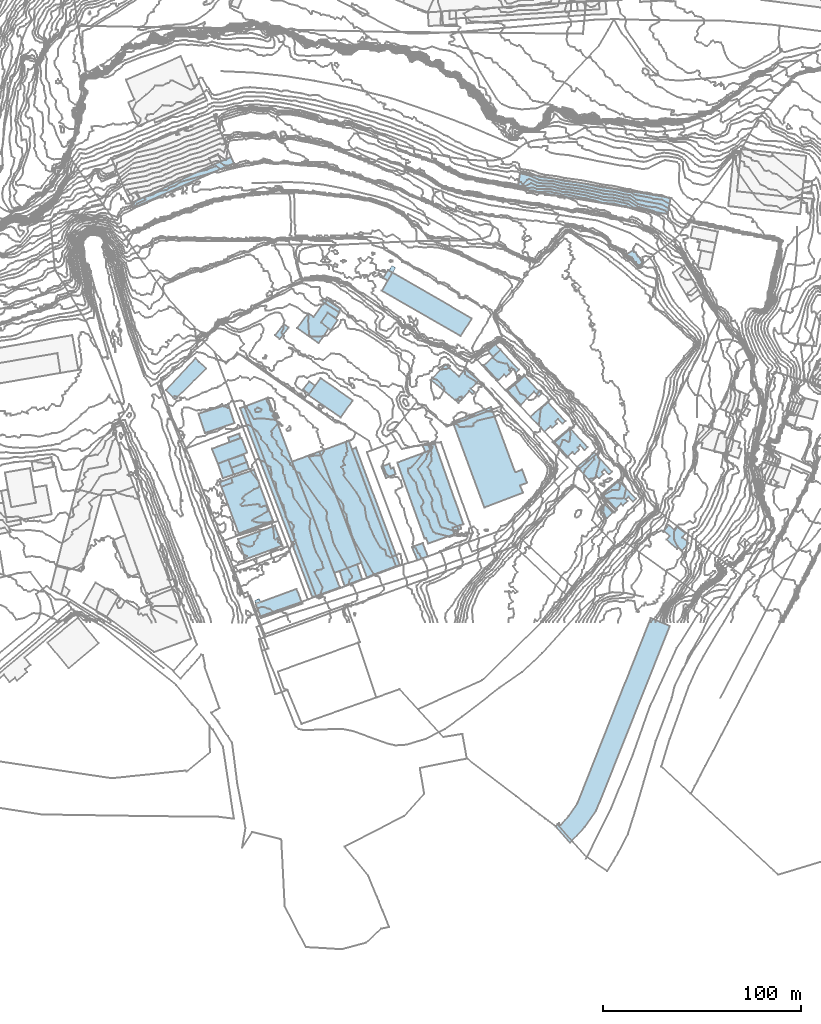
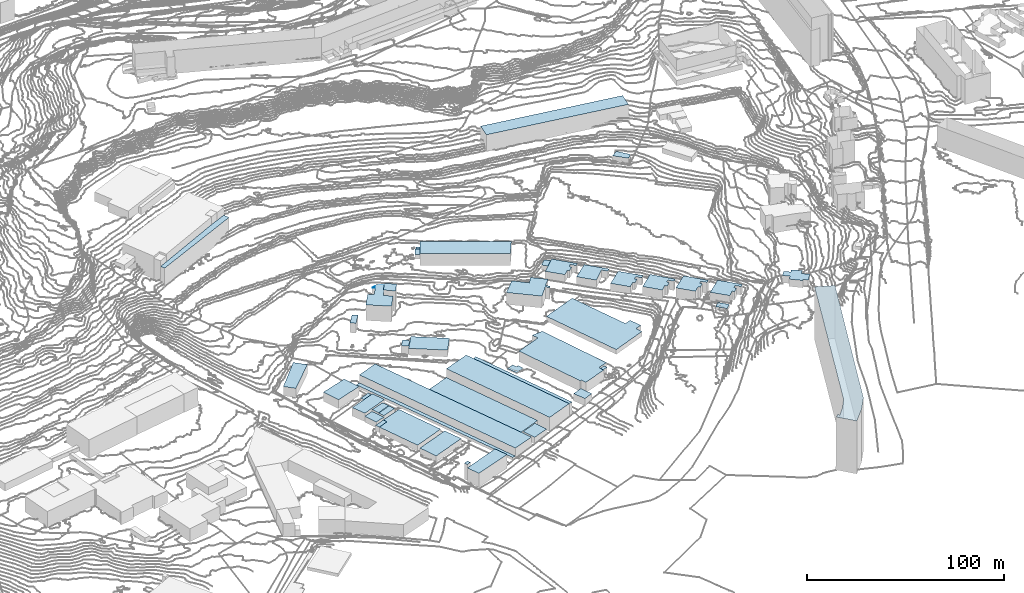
# Not in any storey, part 74 of 419: 46 roofs.
"""IFC2X3 model written with IfcOpenShell, lengths in metres."""

from ifc_helpers import new_model, si_unit, frame, origin_with_axes, place, context, subcontext, project, faceted_brep, element, save


model = new_model("IFC2X3")

# Units and contexts
model_context = context("Model", 3, precision=1e-05, world=origin_with_axes())
body_context = subcontext(model_context, "Body", "Model", "MODEL_VIEW")
ifc_project = project(units=[si_unit("AREAUNIT", "SQUARE_METRE"), si_unit("LENGTHUNIT", "METRE")], contexts=[model_context])

# Roofs
roof_1_placement = place(None, frame((421.3920204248, 172.2976909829, 35.0897986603), z_axis=(0.0, 0.0, 1.0), x_axis=(1.0, 0.0, 0.0)))
element("IfcRoof", 1, at=roof_1_placement, Name="Toiture 0", ShapeType="NOTDEFINED", context=body_context, shape_type="Brep", body=[
    faceted_brep([(0.0, 0.0, 2.9102013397), (2.2999999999, -1.3000000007, 2.9102013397), (4.7, 2.6999999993, 2.9102013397), (2.3999999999, 4.0, 2.9102013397)], [[[0, 1, 2]], [[2, 3, 0]]]),
])
roof_2_placement = place(None, frame((344.7920204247, 76.4976909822, 20.0280004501), z_axis=(0.0, 0.0, 1.0), x_axis=(1.0, 0.0, 0.0)))
element("IfcRoof", 2, at=roof_2_placement, Name="Toiture 0", ShapeType="NOTDEFINED", context=body_context, shape_type="Brep", body=[
    faceted_brep([(0.0, 0.0, 4.4719995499), (1.2000000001, -3.3999999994, 4.4719995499), (9.0, -0.5999999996, 4.4719995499), (7.8, 2.9000000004, 4.4719995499)], [[[0, 1, 2]], [[2, 3, 0]]]),
])
roof_3_placement = place(None, frame((343.1920204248, 91.6976909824, 20.6824001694), z_axis=(0.0, 0.0, 1.0), x_axis=(1.0, 0.0, 0.0)))
element("IfcRoof", 3, at=roof_3_placement, Name="Toiture 0", ShapeType="NOTDEFINED", context=body_context, shape_type="Brep", body=[
    faceted_brep([(0.0, 0.0, 4.4175998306), (0.6, -2.2000000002, 4.4175998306), (6.1, -0.2000000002, 4.4175998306), (5.6, 2.1000000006, 4.4175998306)], [[[0, 1, 2]], [[2, 3, 0]]]),
])
roof_4_placement = place(None, frame((311.6920204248, 115.7976909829, 23.0439993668), z_axis=(0.0, 0.0, 1.0), x_axis=(1.0, 0.0, 0.0)))
element("IfcRoof", 4, at=roof_4_placement, Name="Toiture 0", ShapeType="NOTDEFINED", context=body_context, shape_type="Brep", body=[
    faceted_brep([(16.8, 14.1999999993, 5.6560006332), (15.0, 16.0, 5.6560006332), (0.0, 0.0, 5.6560006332), (4.6, -4.6000000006, 5.6560006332), (20.3, 10.6999999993, 5.6560006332)], [[[0, 1, 2]], [[2, 3, 4]], [[4, 0, 2]]]),
])
roof_5_placement = place(None, frame((489.2920204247, 217.2976909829, 50.7399997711), z_axis=(0.0, 0.0, 1.0), x_axis=(1.0, 0.0, 0.0)))
element("IfcRoof", 5, at=roof_5_placement, Name="Toiture 0", ShapeType="NOTDEFINED", context=body_context, shape_type="Brep", body=[
    faceted_brep([(77.3, -4.5, 10.2600002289), (1.3, 8.0999999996, 10.2600002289), (0.0, 0.0, 10.2600002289), (75.9, -12.7000000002, 10.2600002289)], [[[0, 1, 2]], [[2, 3, 0]]]),
])
roof_6_placement = place(None, frame((366.6920204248, 143.3976909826, 26.1219998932), z_axis=(0.0, 0.0, 1.0), x_axis=(1.0, 0.0, 0.0)))
element("IfcRoof", 6, at=roof_6_placement, Name="Toiture 0", ShapeType="NOTDEFINED", context=body_context, shape_type="Brep", body=[
    faceted_brep([(2.5, -1.7999999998, 6.0), (6.9, 3.9000000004, 6.0), (4.5, 5.7999999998, 6.0), (0.0, 0.0, 6.0)], [[[0, 1, 2]], [[2, 3, 0]]]),
])
roof_7_placement = place(None, frame((472.3920204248, 128.2976909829, 31.6524000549), z_axis=(0.0, 0.0, 1.0), x_axis=(1.0, 0.0, 0.0)))
element("IfcRoof", 7, at=roof_7_placement, Name="Toiture 0", ShapeType="NOTDEFINED", context=body_context, shape_type="Brep", body=[
    faceted_brep([(8.2999999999, 7.7999999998, 4.6475999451), (0.0, 0.0, 4.6475999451), (7.2, -7.6000000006, 4.6475999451), (10.2, -4.8000000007, 4.6475999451), (11.1, -5.7000000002, 4.6475999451), (13.5, -3.5, 4.6475999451), (14.0, -1.2000000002, 4.6475999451), (16.2, -3.6000000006, 4.6475999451), (17.7, -2.3000000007, 4.6475999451), (12.6, -2.5, 4.6475999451)], [[[0, 1, 2]], [[3, 4, 5]], [[6, 7, 8]], [[0, 2, 3]], [[3, 5, 9]], [[6, 8, 0]], [[0, 3, 9]], [[9, 6, 0]]]),
])
roof_8_placement = place(None, frame((343.2920204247, 80.5976909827, 20.1700000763), z_axis=(0.0, 0.0, 1.0), x_axis=(1.0, 0.0, 0.0)))
element("IfcRoof", 8, at=roof_8_placement, Name="Toiture 0", ShapeType="NOTDEFINED", context=body_context, shape_type="Brep", body=[
    faceted_brep([(7.7000000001, 2.5, 4.5299999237), (0.0, 0.0, 4.5299999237), (1.5, -4.1000000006, 4.5299999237), (9.3, -1.2000000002, 4.5299999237)], [[[0, 1, 2]], [[2, 3, 0]]]),
])
roof_9_placement = place(None, frame((380.8920204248, 115.9976909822, 24.6870004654), z_axis=(0.0, 0.0, 1.0), x_axis=(1.0, 0.0, 0.0)))
element("IfcRoof", 9, at=roof_9_placement, Name="Toiture 0", ShapeType="NOTDEFINED", context=body_context, shape_type="Brep", body=[
    faceted_brep([(0.0, 0.0, 5.0129995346), (3.1, -2.2999999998, 5.0129995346), (6.1, 1.9000000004, 5.0129995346), (3.1, 4.1000000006, 5.0129995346)], [[[0, 1, 2]], [[2, 3, 0]]]),
])
roof_10_placement = place(None, frame((405.7920204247, 85.7976909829, 23.8416001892), z_axis=(0.0, 0.0, 1.0), x_axis=(1.0, 0.0, 0.0)))
element("IfcRoof", 10, at=roof_10_placement, Name="Toiture 0", ShapeType="NOTDEFINED", context=body_context, shape_type="Brep", body=[
    faceted_brep([(22.1000000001, -59.0, 7.4583998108), (24.1000000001, -58.4000000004, 7.4583998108), (1.9, 0.8999999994, 7.4583998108), (0.0, 0.0, 7.4583998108)], [[[0, 1, 2]], [[2, 3, 0]]]),
])
roof_11_placement = place(None, frame((389.2920204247, 84.6976909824, 22.6495998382), z_axis=(0.0, 0.0, 1.0), x_axis=(1.0, 0.0, 0.0)))
element("IfcRoof", 11, at=roof_11_placement, Name="Toiture 0", ShapeType="NOTDEFINED", context=body_context, shape_type="Brep", body=[
    faceted_brep([(23.9, -63.5, 8.7504001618), (38.6000000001, -57.8999999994, 8.7504001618), (14.8, 5.5, 8.7504001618), (0.0, 0.0, 8.7504001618)], [[[0, 1, 2]], [[2, 3, 0]]]),
])
roof_12_placement = place(None, frame((456.4920204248, 46.1976909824, 26.6595002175), z_axis=(0.0, 0.0, 1.0), x_axis=(1.0, 0.0, 0.0)))
element("IfcRoof", 12, at=roof_12_placement, Name="Toiture 0", ShapeType="NOTDEFINED", context=body_context, shape_type="Brep", body=[
    faceted_brep([(0.0, 0.0, 4.2404997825), (0.6, -1.8999999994, 4.2404997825), (4.4, -0.5, 4.2404997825), (3.9, 1.4000000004, 4.2404997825)], [[[0, 1, 2]], [[2, 3, 0]]]),
])
roof_13_placement = place(None, frame((420.6920204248, 165.8976909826, 35.0520011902), z_axis=(0.0, 0.0, 1.0), x_axis=(1.0, 0.0, 0.0)))
element("IfcRoof", 13, at=roof_13_placement, Name="Toiture 0", ShapeType="NOTDEFINED", context=body_context, shape_type="Brep", body=[
    faceted_brep([(5.4, 9.0999999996, 7.6479988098), (3.0, 5.0999999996, 7.6479988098), (0.0, 0.0, 7.6479988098), (39.8, -22.9000000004, 7.6479988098), (45.5, -14.0, 7.6479988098)], [[[0, 1, 2]], [[2, 3, 4]], [[4, 0, 2]]]),
])
roof_14_placement = place(None, frame((337.9920204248, 78.5976909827, 20.0227003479), z_axis=(0.0, 0.0, 1.0), x_axis=(1.0, 0.0, 0.0)))
element("IfcRoof", 14, at=roof_14_placement, Name="Toiture 0", ShapeType="NOTDEFINED", context=body_context, shape_type="Brep", body=[
    faceted_brep([(2.5, -7.2999999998, 3.5772996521), (8.0, -5.5, 3.5772996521), (5.2999999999, 2.0, 3.5772996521), (0.0, 0.0, 3.5772996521)], [[[0, 1, 2]], [[2, 3, 0]]]),
])
roof_15_placement = place(None, frame((334.8920204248, 86.0976909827, 20.3079998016), z_axis=(0.0, 0.0, 1.0), x_axis=(1.0, 0.0, 0.0)))
element("IfcRoof", 15, at=roof_15_placement, Name="Toiture 0", ShapeType="NOTDEFINED", context=body_context, shape_type="Brep", body=[
    faceted_brep([(0.0, 0.0, 5.1920001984), (3.1, -7.5, 5.1920001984), (17.8999999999, -1.9000000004, 5.1920001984), (15.0, 5.5, 5.1920001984)], [[[0, 1, 2]], [[2, 3, 0]]]),
])
roof_16_placement = place(None, frame((445.2920204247, 120.8976909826, 29.7809999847), z_axis=(0.0, 0.0, 1.0), x_axis=(1.0, 0.0, 0.0)))
element("IfcRoof", 16, at=roof_16_placement, Name="Toiture 0", ShapeType="NOTDEFINED", context=body_context, shape_type="Brep", body=[
    faceted_brep([(24.3, -0.4000000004, 7.3190000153), (17.3, 5.5, 7.3190000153), (14.5, 1.5999999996, 7.3190000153), (7.7000000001, 7.5999999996, 7.3190000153), (0.0, 0.0, 7.3190000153), (14.1000000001, -11.7999999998, 7.3190000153), (19.6000000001, -5.7000000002, 7.3190000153), (21.3, -7.2000000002, 7.3190000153), (22.2000000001, -6.2000000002, 7.3190000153), (20.4, -4.5, 7.3190000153)], [[[0, 1, 2]], [[2, 3, 4]], [[4, 5, 6]], [[6, 7, 8]], [[9, 0, 2]], [[2, 4, 6]], [[6, 8, 9]], [[9, 2, 6]]]),
])
roof_17_placement = place(None, frame((357.0920204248, 7.6976909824, 19.3652006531), z_axis=(0.0, 0.0, 1.0), x_axis=(1.0, 0.0, 0.0)))
element("IfcRoof", 17, at=roof_17_placement, Name="Toiture 0", ShapeType="NOTDEFINED", context=body_context, shape_type="Brep", body=[
    faceted_brep([(0.0, 0.0, 8.5347993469), (2.7, -7.0999999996, 8.5347993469), (23.5, 0.2000000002, 8.5347993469), (20.6, 7.6000000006, 8.5347993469)], [[[0, 1, 2]], [[2, 3, 0]]]),
])
roof_18_placement = place(None, frame((519.3920204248, 76.9976909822, 33.9335998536), z_axis=(0.0, 0.0, 1.0), x_axis=(1.0, 0.0, 0.0)))
element("IfcRoof", 18, at=roof_18_placement, Name="Toiture 0", ShapeType="NOTDEFINED", context=body_context, shape_type="Brep", body=[
    faceted_brep([(8.7, 7.3000000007, 6.7664001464), (0.0, 0.0, 6.7664001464), (7.1, -7.6999999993, 6.7664001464), (10.1, -4.8999999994, 6.7664001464), (11.0, -5.7999999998, 6.7664001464), (13.3999999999, -3.5999999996, 6.7664001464), (13.8999999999, -1.3999999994, 6.7664001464), (16.1, -3.7999999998, 6.7664001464), (17.6, -2.3999999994, 6.7664001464), (12.5, -2.5999999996, 6.7664001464)], [[[0, 1, 2]], [[3, 4, 5]], [[6, 7, 8]], [[0, 2, 3]], [[3, 5, 9]], [[6, 8, 0]], [[0, 3, 9]], [[9, 6, 0]]]),
])
roof_19_placement = place(None, frame((530.3920204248, 55.4976909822, 36.1887983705), z_axis=(0.0, 0.0, 1.0), x_axis=(1.0, 0.0, 0.0)))
element("IfcRoof", 19, at=roof_19_placement, Name="Toiture 0", ShapeType="NOTDEFINED", context=body_context, shape_type="Brep", body=[
    faceted_brep([(4.1, -4.2999999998, 2.0112016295), (7.0, -1.6999999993, 2.0112016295), (2.7999999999, 2.8000000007, 2.0112016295), (0.0, 0.0, 2.0112016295)], [[[0, 1, 2]], [[2, 3, 0]]]),
])
roof_20_placement = place(None, frame((349.1920204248, 106.5976909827, 20.5634006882), z_axis=(0.0, 0.0, 1.0), x_axis=(1.0, 0.0, 0.0)))
element("IfcRoof", 20, at=roof_20_placement, Name="Toiture 0", ShapeType="NOTDEFINED", context=body_context, shape_type="Brep", body=[
    faceted_brep([(0.0, 0.0, 1.6365993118), (36.5, -95.2999999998, 1.6365993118), (38.4, -94.9000000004, 1.6365993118), (2.2000000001, 0.7999999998, 1.6365993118)], [[[0, 1, 2]], [[2, 3, 0]]]),
])
roof_21_placement = place(None, frame((428.5920204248, 79.0976909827, 25.4969999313), z_axis=(0.0, 0.0, 1.0), x_axis=(1.0, 0.0, 0.0)))
element("IfcRoof", 21, at=roof_21_placement, Name="Toiture 0", ShapeType="NOTDEFINED", context=body_context, shape_type="Brep", body=[
    faceted_brep([(27.9, -32.9000000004, 6.5030000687), (33.4, -31.1000000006, 6.5030000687), (19.1, 9.2999999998, 6.5030000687), (12.8, 8.7000000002, 6.5030000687), (14.2, 5.2999999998, 6.5030000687), (0.0, 0.0, 6.5030000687), (13.8, -38.2999999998, 6.5030000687), (14.5, -38.0, 6.5030000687), (15.6, -40.9000000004, 6.5030000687), (28.9, -36.1000000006, 6.5030000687)], [[[0, 1, 2]], [[2, 3, 4]], [[4, 5, 6]], [[7, 8, 9]], [[0, 2, 4]], [[4, 6, 7]], [[7, 9, 0]], [[0, 4, 7]]]),
])
roof_22_placement = place(None, frame((338.7920204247, 69.1976909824, 20.0052000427), z_axis=(0.0, 0.0, 1.0), x_axis=(1.0, 0.0, 0.0)))
element("IfcRoof", 22, at=roof_22_placement, Name="Toiture 0", ShapeType="NOTDEFINED", context=body_context, shape_type="Brep", body=[
    faceted_brep([(0.0, 0.0, 3.3947999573), (0.9, -2.2999999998, 3.3947999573), (6.6000000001, -0.2000000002, 3.3947999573), (5.9, 2.2000000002, 3.3947999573)], [[[0, 1, 2]], [[2, 3, 0]]]),
])
roof_23_placement = place(None, frame((508.4920204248, -104.6023090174, 41.7790016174), z_axis=(0.0, 0.0, 1.0), x_axis=(1.0, 0.0, 0.0)))
element("IfcRoof", 23, at=roof_23_placement, Name="Toiture 0", ShapeType="NOTDEFINED", context=body_context, shape_type="Brep", body=[
    faceted_brep([(1.7999999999, 1.5, 32.8209983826), (0.0, 0.0, 32.8209983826), (7.2999999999, -8.2999999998, 32.8209983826), (14.7, -0.4000000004, 32.8209983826), (20.5, 7.7999999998, 32.8209983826), (57.7, 101.0999999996, 32.8209983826), (48.1, 105.2000000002, 32.8209983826), (2.6, 0.5999999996, 32.8209983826), (6.6, 5.2000000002, 32.8209983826), (11.0, 11.5, 32.8209983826)], [[[0, 1, 2]], [[2, 3, 4]], [[4, 5, 6]], [[7, 0, 2]], [[2, 4, 6]], [[8, 7, 2]], [[2, 6, 9]], [[9, 8, 2]]]),
])
roof_24_placement = place(None, frame((435.9920204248, 36.4976909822, 24.4427996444), z_axis=(0.0, 0.0, 1.0), x_axis=(1.0, 0.0, 0.0)))
element("IfcRoof", 24, at=roof_24_placement, Name="Toiture 0", ShapeType="NOTDEFINED", context=body_context, shape_type="Brep", body=[
    faceted_brep([(2.7999999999, -6.6999999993, 4.4572003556), (8.0, -4.6999999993, 4.4572003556), (5.5, 2.0, 4.4572003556), (0.0, 0.0, 4.4572003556)], [[[0, 1, 2]], [[2, 3, 0]]]),
])
roof_25_placement = place(None, frame((474.3920204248, 135.5976909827, 32.0834997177), z_axis=(0.0, 0.0, 1.0), x_axis=(1.0, 0.0, 0.0)))
element("IfcRoof", 25, at=roof_25_placement, Name="Toiture 0", ShapeType="NOTDEFINED", context=body_context, shape_type="Brep", body=[
    faceted_brep([(0.0, 0.0, 3.0165002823), (2.7, -2.9000000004, 3.0165002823), (6.2999999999, 0.5, 3.0165002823), (3.5, 3.2999999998, 3.0165002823)], [[[0, 1, 2]], [[2, 3, 0]]]),
])
roof_26_placement = place(None, frame((356.3920204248, 9.4976909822, 20.2654003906), z_axis=(0.0, 0.0, 1.0), x_axis=(1.0, 0.0, 0.0)))
element("IfcRoof", 26, at=roof_26_placement, Name="Toiture 0", ShapeType="NOTDEFINED", context=body_context, shape_type="Brep", body=[
    faceted_brep([(0.0, 0.0, 9.7345996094), (0.7, -1.7999999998, 9.7345996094), (3.1, -0.8999999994, 9.7345996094), (2.3999999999, 1.0, 9.7345996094)], [[[0, 1, 2]], [[2, 3, 0]]]),
])
roof_27_placement = place(None, frame((377.9920204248, 146.9976909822, 27.5247998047), z_axis=(0.0, 0.0, 1.0), x_axis=(1.0, 0.0, 0.0)))
element("IfcRoof", 27, at=roof_27_placement, Name="Toiture 0", ShapeType="NOTDEFINED", context=body_context, shape_type="Brep", body=[
    faceted_brep([(10.7999999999, -7.5999999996, 9.6752001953), (15.7999999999, -0.1999999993, 9.6752001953), (12.0, 2.9000000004, 9.6752001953), (15.4, 7.8000000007, 9.6752001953), (19.5, 5.0, 9.6752001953), (21.2999999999, 7.8000000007, 9.6752001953), (8.2, 5.7000000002, 9.6752001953), (5.5, 7.5, 9.6752001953), (0.0, 0.0, 9.6752001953), (13.4, 12.9000000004, 9.6752001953)], [[[0, 1, 2]], [[3, 4, 5]], [[6, 7, 8]], [[8, 0, 2]], [[3, 5, 9]], [[6, 8, 2]], [[2, 3, 9]], [[9, 6, 2]]]),
])
roof_28_placement = place(None, frame((456.5920204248, 99.6976909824, 28.288000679), z_axis=(0.0, 0.0, 1.0), x_axis=(1.0, 0.0, 0.0)))
element("IfcRoof", 28, at=roof_28_placement, Name="Toiture 0", ShapeType="NOTDEFINED", context=body_context, shape_type="Brep", body=[
    faceted_brep([(19.4, 7.4000000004, 2.911999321), (0.0, 0.0, 2.911999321), (16.0, -43.2000000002, 2.911999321), (35.4, -35.7999999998, 2.911999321), (34.1, -32.0999999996, 2.911999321), (37.6, -30.7999999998, 2.911999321), (35.1, -24.2000000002, 2.911999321), (31.6, -25.5, 2.911999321)], [[[0, 1, 2]], [[2, 3, 4]], [[4, 5, 6]], [[7, 0, 2]], [[2, 4, 6]], [[6, 7, 2]]]),
])
roof_29_placement = place(None, frame((495.7920204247, 102.3976909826, 31.7419998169), z_axis=(0.0, 0.0, 1.0), x_axis=(1.0, 0.0, 0.0)))
element("IfcRoof", 29, at=roof_29_placement, Name="Toiture 0", ShapeType="NOTDEFINED", context=body_context, shape_type="Brep", body=[
    faceted_brep([(8.7000000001, 7.4000000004, 4.5580001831), (0.0, 0.0, 4.5580001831), (7.2000000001, -7.5999999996, 4.5580001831), (10.2000000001, -4.7999999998, 4.5580001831), (11.0, -5.7000000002, 4.5580001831), (13.5, -3.5, 4.5580001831), (13.9, -1.2000000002, 4.5580001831), (16.2000000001, -3.5999999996, 4.5580001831), (17.7000000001, -2.2000000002, 4.5580001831), (12.6000000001, -2.5, 4.5580001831)], [[[0, 1, 2]], [[3, 4, 5]], [[6, 7, 8]], [[0, 2, 3]], [[3, 5, 9]], [[6, 8, 0]], [[0, 3, 9]], [[9, 6, 0]]]),
])
roof_30_placement = place(None, frame((507.0920204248, 89.3976909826, 32.5799999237), z_axis=(0.0, 0.0, 1.0), x_axis=(1.0, 0.0, 0.0)))
element("IfcRoof", 30, at=roof_30_placement, Name="Toiture 0", ShapeType="NOTDEFINED", context=body_context, shape_type="Brep", body=[
    faceted_brep([(8.6, 7.4000000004, 5.7200000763), (0.0, 0.0, 5.7200000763), (7.1, -7.7000000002, 5.7200000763), (10.1, -4.9000000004, 5.7200000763), (11.0, -5.9000000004, 5.7200000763), (13.4, -3.7000000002, 5.7200000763), (13.9, -1.5, 5.7200000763), (16.1, -3.9000000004, 5.7200000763), (17.6, -2.5, 5.7200000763), (12.5, -2.7000000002, 5.7200000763)], [[[0, 1, 2]], [[3, 4, 5]], [[6, 7, 8]], [[0, 2, 3]], [[3, 5, 9]], [[6, 8, 0]], [[0, 3, 9]], [[9, 6, 0]]]),
])
roof_31_placement = place(None, frame((531.3920204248, 62.9976909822, 36.9735998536), z_axis=(0.0, 0.0, 1.0), x_axis=(1.0, 0.0, 0.0)))
element("IfcRoof", 31, at=roof_31_placement, Name="Toiture 0", ShapeType="NOTDEFINED", context=body_context, shape_type="Brep", body=[
    faceted_brep([(8.7, 7.4000000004, 5.2264001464), (0.0, 0.0, 5.2264001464), (7.2, -7.5, 5.2264001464), (10.2, -4.6999999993, 5.2264001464), (11.1, -5.5999999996, 5.2264001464), (13.5, -3.2999999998, 5.2264001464), (13.8999999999, -1.0999999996, 5.2264001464), (16.2, -3.5, 5.2264001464), (17.7, -2.0999999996, 5.2264001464), (12.6, -2.3999999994, 5.2264001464)], [[[0, 1, 2]], [[3, 4, 5]], [[6, 7, 8]], [[0, 2, 3]], [[3, 5, 9]], [[6, 8, 0]], [[0, 3, 9]], [[9, 6, 0]]]),
])
roof_32_placement = place(None, frame((383.4920204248, 113.1976909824, 24.6164005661), z_axis=(0.0, 0.0, 1.0), x_axis=(1.0, 0.0, 0.0)))
element("IfcRoof", 32, at=roof_32_placement, Name="Toiture 0", ShapeType="NOTDEFINED", context=body_context, shape_type="Brep", body=[
    faceted_brep([(0.5, 0.5, 4.1835994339), (0.0, 0.0, 4.1835994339), (16.4, -11.2999999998, 4.1835994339), (22.5, -2.7000000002, 4.1835994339), (6.2999999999, 8.5, 4.1835994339)], [[[0, 1, 2]], [[2, 3, 4]], [[4, 0, 2]]]),
])
roof_33_placement = place(None, frame((389.9920204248, 149.8976909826, 27.9512001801), z_axis=(0.0, 0.0, 1.0), x_axis=(1.0, 0.0, 0.0)))
element("IfcRoof", 33, at=roof_33_placement, Name="Toiture 0", ShapeType="NOTDEFINED", context=body_context, shape_type="Brep", body=[
    faceted_brep([(3.7999999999, -3.0999999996, 12.5487998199), (4.7999999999, -4.0999999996, 12.5487998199), (8.4, 1.0999999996, 12.5487998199), (3.4, 4.9000000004, 12.5487998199), (0.0, 0.0, 12.5487998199)], [[[0, 1, 2]], [[2, 3, 4]], [[4, 0, 2]]]),
])
roof_34_placement = place(None, frame((389.6920204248, 160.9976909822, 28.4696003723), z_axis=(0.0, 0.0, 1.0), x_axis=(1.0, 0.0, 0.0)))
element("IfcRoof", 34, at=roof_34_placement, Name="Toiture 0", ShapeType="NOTDEFINED", context=body_context, shape_type="Brep", body=[
    faceted_brep([(0.0, 0.0, 6.7303996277), (9.3, -5.7999999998, 6.7303996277), (10.2000000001, -4.3999999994, 6.7303996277), (3.5, 0.1000000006, 6.7303996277), (1.9, 0.4000000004, 6.7303996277)], [[[0, 1, 2]], [[2, 3, 4]], [[4, 0, 2]]]),
])
roof_35_placement = place(None, frame((294.1920204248, 210.1976909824, 40.9370006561), z_axis=(0.0, 0.0, 1.0), x_axis=(1.0, 0.0, 0.0)))
element("IfcRoof", 35, at=roof_35_placement, Name="Toiture 0", ShapeType="NOTDEFINED", context=body_context, shape_type="Brep", body=[
    faceted_brep([(41.1, 19.2999999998, 11.0629993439), (0.0, 0.0, 11.0629993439), (1.1, -2.2999999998, 11.0629993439), (51.8, 20.2000000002, 11.0629993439), (50.5, 23.2999999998, 11.0629993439)], [[[0, 1, 2]], [[2, 3, 4]], [[4, 0, 2]]]),
])
roof_36_placement = place(None, frame((351.3920204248, 107.3976909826, 20.9520000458), z_axis=(0.0, 0.0, 1.0), x_axis=(1.0, 0.0, 0.0)))
element("IfcRoof", 36, at=roof_36_placement, Name="Toiture 0", ShapeType="NOTDEFINED", context=body_context, shape_type="Brep", body=[
    faceted_brep([(0.0, 0.0, 6.1479999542), (36.2, -95.7000000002, 6.1479999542), (48.2, -91.2999999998, 6.1479999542), (11.7999999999, 4.5, 6.1479999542)], [[[0, 1, 2]], [[2, 3, 0]]]),
])
roof_37_placement = place(None, frame((339.6920204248, 66.8976909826, 19.655200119), z_axis=(0.0, 0.0, 1.0), x_axis=(1.0, 0.0, 0.0)))
element("IfcRoof", 37, at=roof_37_placement, Name="Toiture 0", ShapeType="NOTDEFINED", context=body_context, shape_type="Brep", body=[
    faceted_brep([(5.7000000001, 2.0999999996, 3.744799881), (0.0, 0.0, 3.744799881), (8.8, -23.5999999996, 3.744799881), (26.1, -17.0999999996, 3.744799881), (16.5, 8.5999999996, 3.744799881), (5.0, 4.5, 3.744799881)], [[[0, 1, 2]], [[2, 3, 4]], [[4, 5, 0]], [[0, 2, 4]]]),
])
roof_38_placement = place(None, frame((348.1920204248, 40.3976909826, 19.7797005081), z_axis=(0.0, 0.0, 1.0), x_axis=(1.0, 0.0, 0.0)))
element("IfcRoof", 38, at=roof_38_placement, Name="Toiture 0", ShapeType="NOTDEFINED", context=body_context, shape_type="Brep", body=[
    faceted_brep([(3.6, -10.2000000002, 3.7202994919), (22.4, -3.2000000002, 3.7202994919), (18.5, 6.9000000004, 3.7202994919), (0.0, 0.0, 3.7202994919)], [[[0, 1, 2]], [[2, 3, 0]]]),
])
roof_39_placement = place(None, frame((424.1920204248, 176.0976909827, 35.1159988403), z_axis=(0.0, 0.0, 1.0), x_axis=(1.0, 0.0, 0.0)))
element("IfcRoof", 39, at=roof_39_placement, Name="Toiture 0", ShapeType="NOTDEFINED", context=body_context, shape_type="Brep", body=[
    faceted_brep([(1.9, -1.1000000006, 1.8840011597), (3.4, 1.5, 1.8840011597), (1.6, 2.5999999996, 1.8840011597), (0.0, 0.0, 1.8840011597)], [[[0, 1, 2]], [[2, 3, 0]]]),
])
roof_40_placement = place(None, frame((420.5920204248, 76.9976909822, 24.4879997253), z_axis=(0.0, 0.0, 1.0), x_axis=(1.0, 0.0, 0.0)))
element("IfcRoof", 40, at=roof_40_placement, Name="Toiture 0", ShapeType="NOTDEFINED", context=body_context, shape_type="Brep", body=[
    faceted_brep([(0.0, 0.0, 0.7120002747), (2.3, -5.5999999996, 0.7120002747), (7.2, -3.5999999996, 0.7120002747), (6.1, -0.5, 0.7120002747), (4.8, -0.8999999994, 0.7120002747), (4.0, 1.6000000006, 0.7120002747)], [[[0, 1, 2]], [[2, 3, 4]], [[4, 5, 0]], [[0, 2, 4]]]),
])
roof_41_placement = place(None, frame((328.1920204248, 103.7976909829, 21.125000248), z_axis=(0.0, 0.0, 1.0), x_axis=(1.0, 0.0, 0.0)))
element("IfcRoof", 41, at=roof_41_placement, Name="Toiture 0", ShapeType="NOTDEFINED", context=body_context, shape_type="Brep", body=[
    faceted_brep([(18.2000000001, -4.7000000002, 5.574999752), (15.0, 4.7999999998, 5.574999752), (0.0, 0.0, 5.574999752), (3.3, -9.7000000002, 5.574999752)], [[[0, 1, 2]], [[2, 3, 0]]]),
])
roof_42_placement = place(None, frame((375.3920204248, 79.5976909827, 21.4464002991), z_axis=(0.0, 0.0, 1.0), x_axis=(1.0, 0.0, 0.0)))
element("IfcRoof", 42, at=roof_42_placement, Name="Toiture 0", ShapeType="NOTDEFINED", context=body_context, shape_type="Brep", body=[
    faceted_brep([(21.3999999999, -56.1000000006, 4.5535997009), (24.1, -55.2999999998, 4.5535997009), (35.0, -51.0, 4.5535997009), (13.8999999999, 5.0999999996, 4.5535997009), (0.0, 0.0, 4.5535997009)], [[[0, 1, 2]], [[2, 3, 4]], [[4, 0, 2]]]),
])
roof_43_placement = place(None, frame((399.4920204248, 24.2976909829, 21.6103007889), z_axis=(0.0, 0.0, 1.0), x_axis=(1.0, 0.0, 0.0)))
element("IfcRoof", 43, at=roof_43_placement, Name="Toiture 0", ShapeType="NOTDEFINED", context=body_context, shape_type="Brep", body=[
    faceted_brep([(0.0, 0.0, 3.9896992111), (2.4, -7.4000000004, 3.9896992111), (11.4, -4.0, 3.9896992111), (8.7999999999, 3.3999999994, 3.9896992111)], [[[0, 1, 2]], [[2, 3, 0]]]),
])
roof_44_placement = place(None, frame((544.0920204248, 184.1976909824, 45.4949996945), z_axis=(0.0, 0.0, 1.0), x_axis=(1.0, 0.0, 0.0)))
element("IfcRoof", 44, at=roof_44_placement, Name="Toiture 0", ShapeType="NOTDEFINED", context=body_context, shape_type="Brep", body=[
    faceted_brep([(8.5, -3.5, 3.4050003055), (3.7, 2.4000000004, 3.4050003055), (0.0, 0.0, 3.4050003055), (6.0, -6.0, 3.4050003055)], [[[0, 1, 2]], [[2, 3, 0]]]),
])
roof_45_placement = place(None, frame((563.0920204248, 44.5976909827, 48.1989997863), z_axis=(0.0, 0.0, 1.0), x_axis=(1.0, 0.0, 0.0)))
element("IfcRoof", 45, at=roof_45_placement, Name="Toiture 0", ShapeType="NOTDEFINED", context=body_context, shape_type="Brep", body=[
    faceted_brep([(9.3, -3.2999999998, 4.5010002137), (11.0, -1.2999999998, 4.5010002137), (6.5, 2.0999999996, 4.5010002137), (5.3, 0.5999999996, 4.5010002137), (2.5, 2.8999999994, 4.5010002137), (0.0, 0.0, 4.5010002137), (3.0, -2.5, 4.5010002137), (1.4, -4.5, 4.5010002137), (6.8, -9.1000000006, 4.5010002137), (7.4, -8.4000000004, 4.5010002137), (9.4, -10.0, 4.5010002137), (12.7, -6.1000000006, 4.5010002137)], [[[0, 1, 2]], [[3, 4, 5]], [[6, 7, 8]], [[9, 10, 11]], [[0, 2, 3]], [[3, 5, 6]], [[6, 8, 9]], [[9, 11, 0]], [[0, 3, 6]], [[6, 9, 0]]]),
])
roof_46_placement = place(None, frame((483.7920204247, 116.0976909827, 31.6529998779), z_axis=(0.0, 0.0, 1.0), x_axis=(1.0, 0.0, 0.0)))
element("IfcRoof", 46, at=roof_46_placement, Name="Toiture 0", ShapeType="NOTDEFINED", context=body_context, shape_type="Brep", body=[
    faceted_brep([(8.7000000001, 7.3999999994, 4.6470001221), (0.0, 0.0, 4.6470001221), (7.2000000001, -7.6000000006, 4.6470001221), (13.9, -1.2000000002, 4.6470001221), (16.2000000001, -3.6000000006, 4.6470001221), (17.7000000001, -2.2000000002, 4.6470001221)], [[[0, 1, 2]], [[3, 4, 5]], [[0, 2, 3]], [[3, 5, 0]]]),
])

save(model, "model.ifc")
